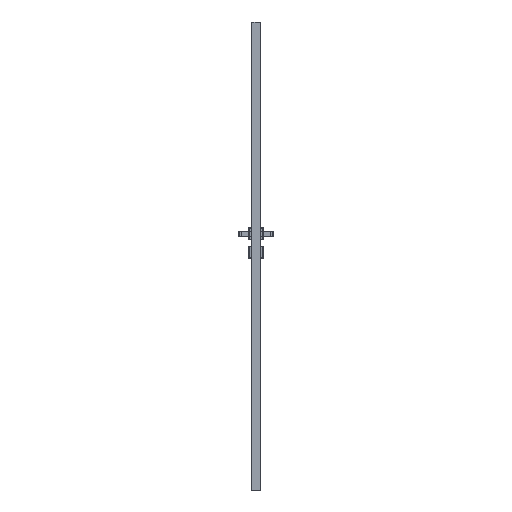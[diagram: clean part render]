
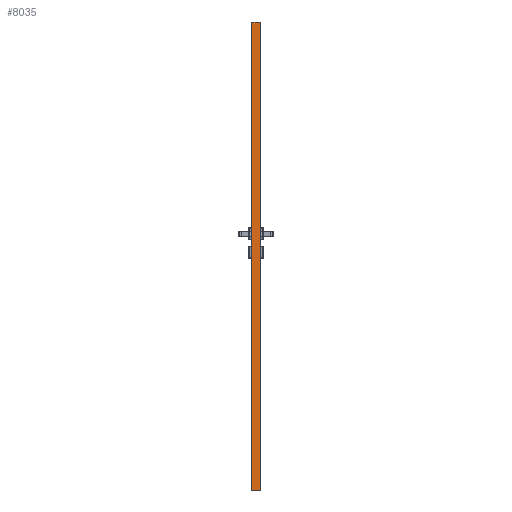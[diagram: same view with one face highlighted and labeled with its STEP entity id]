
A CAD part, left-side view. The second image highlights one B-rep face of the part: STEP entity #8035.
In plain terms, the highlighted planar face has unit normal (-1, 0, 0).
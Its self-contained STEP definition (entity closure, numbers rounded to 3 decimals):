
#4791=FACE_OUTER_BOUND('',#16724,.T.);
#8035=ADVANCED_FACE('',(#4791),#11159,.F.);
#11159=PLANE('',#61416);
#16724=EDGE_LOOP('',(#21601,#21602,#21603,#21604));
#21601=ORIENTED_EDGE('',*,*,#44542,.T.);
#21602=ORIENTED_EDGE('',*,*,#44518,.T.);
#21603=ORIENTED_EDGE('',*,*,#44539,.F.);
#21604=ORIENTED_EDGE('',*,*,#44545,.T.);
#38423=VERTEX_POINT('',#89497);
#38424=VERTEX_POINT('',#89499);
#38438=VERTEX_POINT('',#89538);
#38439=VERTEX_POINT('',#89542);
#44518=EDGE_CURVE('',#38424,#38423,#52925,.T.);
#44539=EDGE_CURVE('',#38438,#38423,#52936,.T.);
#44542=EDGE_CURVE('',#38439,#38424,#52938,.T.);
#44545=EDGE_CURVE('',#38438,#38439,#52940,.T.);
#52925=LINE('',#89498,#57000);
#52936=LINE('',#89539,#57011);
#52938=LINE('',#89544,#57013);
#52940=LINE('',#89550,#57015);
#57000=VECTOR('',#69664,1.);
#57011=VECTOR('',#69705,1.);
#57013=VECTOR('',#69711,1.);
#57015=VECTOR('',#69721,1.);
#61416=AXIS2_PLACEMENT_3D('',#89551,#69722,#69723);
#69664=DIRECTION('',(0.,1.,0.));
#69705=DIRECTION('',(0.,0.,1.));
#69711=DIRECTION('',(0.,0.,1.));
#69721=DIRECTION('',(0.,-1.,0.));
#69722=DIRECTION('',(1.,0.,0.));
#69723=DIRECTION('',(0.,1.,0.));
#89497=CARTESIAN_POINT('',(-309.,-1.65,2017.01));
#89498=CARTESIAN_POINT('',(-309.,0.,2017.01));
#89499=CARTESIAN_POINT('',(-309.,-38.35,2017.01));
#89538=CARTESIAN_POINT('',(-309.,-1.65,0.));
#89539=CARTESIAN_POINT('',(-309.,-1.65,0.));
#89542=CARTESIAN_POINT('',(-309.,-38.35,0.));
#89544=CARTESIAN_POINT('',(-309.,-38.35,0.));
#89550=CARTESIAN_POINT('',(-309.,-38.35,0.));
#89551=CARTESIAN_POINT('',(-309.,-38.35,0.));
